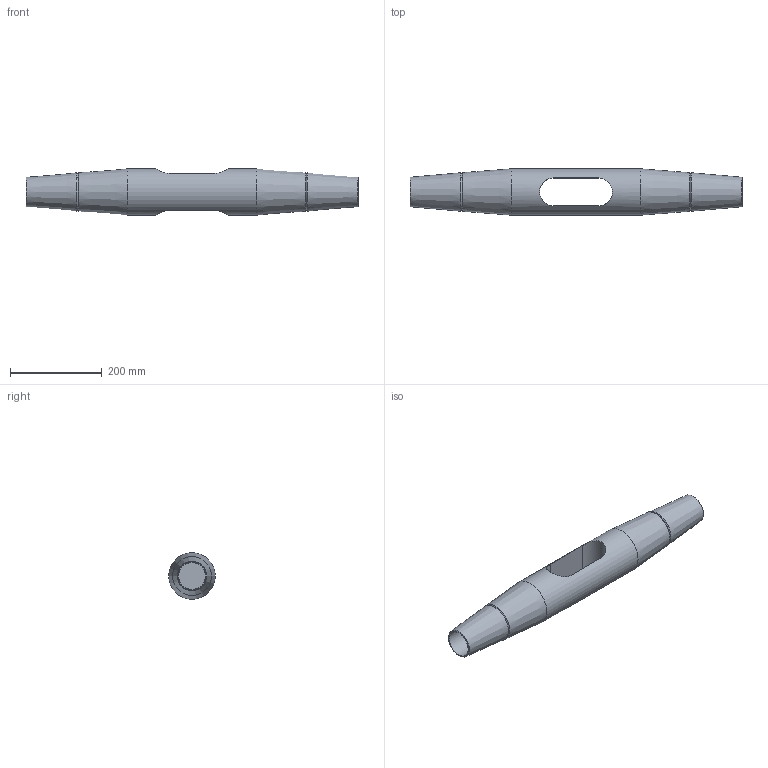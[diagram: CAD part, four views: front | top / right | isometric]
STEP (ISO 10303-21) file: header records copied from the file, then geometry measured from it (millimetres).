
FILE_DESCRIPTION(/* description */ (''),/* implementation_level */ '2;1');
FILE_NAME(/* name */ 'G:\Engineering\700 CAD\Internet-PX-1-step-igs-dxf\520-KMF-Arbeitsdateien\520-056-KMF.stp',/* time_stamp */ '2020-07-02T13:25:04+02:00',/* author */ ('schwarz'),/* organization */ (''),/* preprocessor_version */ 'ST-DEVELOPER v16.1',/* originating_system */ 'Autodesk Inventor 2016',/* authorisation */ '');
FILE_SCHEMA (('AUTOMOTIVE_DESIGN { 1 0 10303 214 3 1 1 }'));
Length unit declared in the file: centimetre
Products named in the file (1): Kreuzmuffen-Set 520 056 Kunde
Bounding box: 723 x 101 x 101 mm (x, y, z)
Volume: 3382752.6 mm3; surface area: 257479.6 mm2
Topology: 1 solids, 1 shells, 21 faces, 41 edges, 24 vertices
Faces by surface type: cone 10, plane 6, cylinder 5
Full cylindrical faces by diameter (mm): 58.5 x2, 101 x1
Entity records: 653 total; most frequent: CARTESIAN_POINT 206, DIRECTION 84, ORIENTED_EDGE 56, EDGE_LOOP 38, AXIS2_PLACEMENT_3D 38, EDGE_CURVE 28, VERTEX_POINT 24, STYLED_ITEM 22
